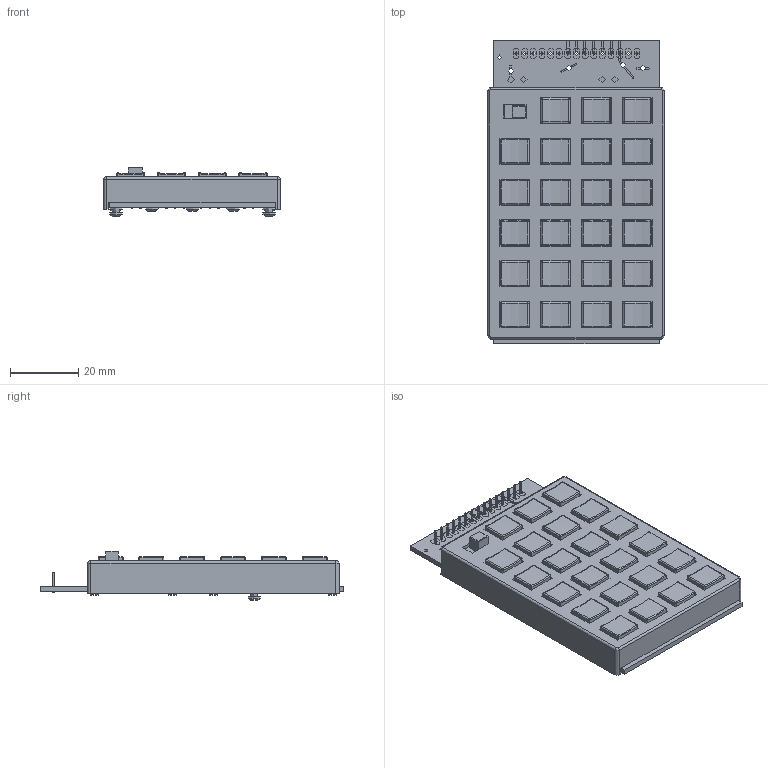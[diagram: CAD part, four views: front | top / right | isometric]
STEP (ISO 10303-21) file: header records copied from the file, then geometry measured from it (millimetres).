
FILE_DESCRIPTION(/* description */ (''),/* implementation_level */ '2;1');
FILE_NAME(/* name */ 'EduardoKeypad.stp',/* time_stamp */ '2026-02-20T20:58:54+01:00',/* author */ ('offt'),/* organization */ (''),/* preprocessor_version */ 'ST-DEVELOPER v20',/* originating_system */ 'Autodesk Inventor 2024',/* authorisation */ '');
FILE_SCHEMA (('AUTOMOTIVE_DESIGN { 1 0 10303 214 3 1 1 }'));
Products named in the file (15): EduardoKeypad; kim-1-keypad; PinHeader_1x15_P2.54mm_Vertical; kim-1-keypad 1.20.1; kim-1-keypad_copper; kim-1-keypad_pad; kim-1-keypad_silkscreen; kim-1-keypad_soldermask; kim-1-keypad_PCB; EduardoKeypadFrame; EduardoKeypadButton; EZDeliveryKeyCap; IS 7173 - M1,9 x 6,5; TL3305AFxxxxG; JS102011SCQN
Assembly tree (66 placements, depth 4):
  EduardoKeypad
    kim-1-keypad
      PinHeader_1x15_P2.54mm_Vertical
        kim-1-keypad 1.20.1
      kim-1-keypad_copper
      kim-1-keypad_pad
      kim-1-keypad_silkscreen
      kim-1-keypad_soldermask
      kim-1-keypad_PCB
    EduardoKeypadFrame
    EduardoKeypadButton
    EZDeliveryKeyCap  x23
    IS 7173 - M1,9 x 6,5  x9
    TL3305AFxxxxG  x23
    JS102011SCQN
Bounding box: 52 x 89.38 x 14.63 mm (x, y, z)
Volume: 24612.7 mm3; surface area: 40693.2 mm2
Topology: 202 solids, 421 shells, 7342 faces, 19681 edges, 13493 vertices
Faces by surface type: plane 5348, cylinder 1623, bspline 116, sphere 115, torus 99, cone 41
Full cylindrical faces by diameter (mm): 0.65 x92, 0.7 x92, 0.95 x92, 1 x30, 1.04 x23, 1.25 x1, 1.5 x4, 1.6 x9, 1.9 x9, 2 x2, 2.05 x3, 2.5 x9, 2.6 x23, 3.61 x9
Entity records: 77385 total; most frequent: CARTESIAN_POINT 15099, DIRECTION 12189, ORIENTED_EDGE 11554, EDGE_CURVE 6739, LINE 5545, VECTOR 5545, VERTEX_POINT 5077, AXIS2_PLACEMENT_3D 3322
